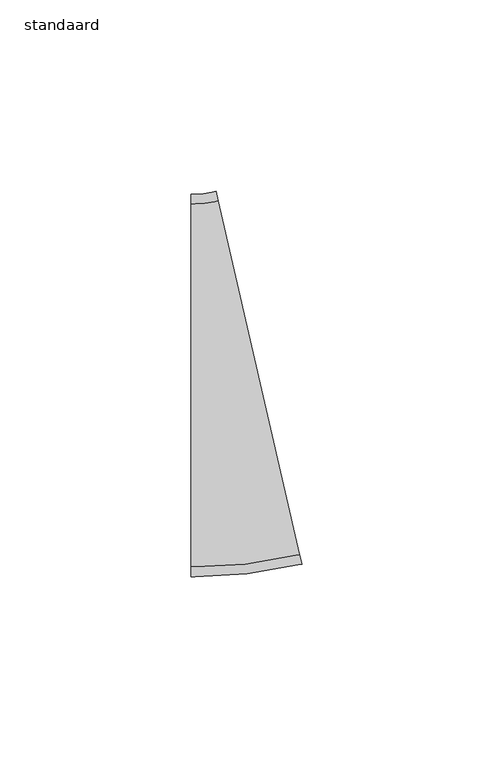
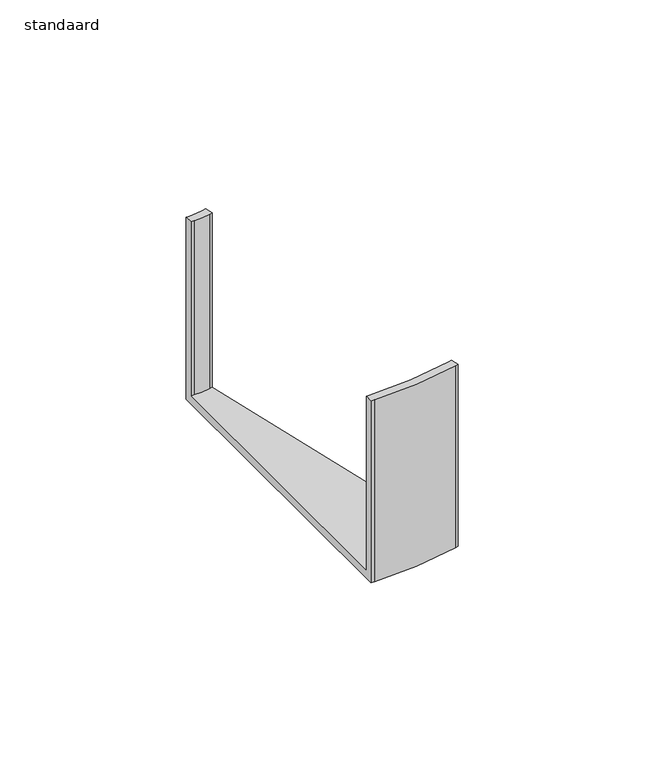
"""IFC4 building model written with IfcOpenShell, lengths in millimetres: cable carrier fitting geometry, AI_Raccord cdc_Coude horizontal rayon court : standaard."""

from ifc_helpers import new_model, si_unit, frame, origin, place, context, project, spatial, polyline, circle_curve, source, transform, mapped, element, save
from ifc_brep_helpers import plane_surface, cylinder_surface, revolved_surface, advanced_brep


def standaard_4c7fa205(model_context):
    return source(origin(), model_context, "Body", "AdvancedBrep", [
        advanced_brep(
        [(-8.9756089, -50.0, -30.0), (-8.9756089, -50.0, 30.0), (-8.9756089, -47.46, 30.0), (-8.9756089, -47.46, -27.46), (-8.9756089, 47.46, -27.46), (-8.9756089, 47.46, 30.0), (-8.9756089, 50.0, 30.0), (-8.9756089, 50.0, -30.0), (19.9932704, -46.699365, -30.0), (-2.5021545, 50.7375677, -30.0), (-2.5021545, 50.7375677, 30.0), (-1.9307707, 48.2626696, 30.0), (-1.9307707, 48.2626696, -27.46), (19.4218867, -44.2244669, -27.46), (19.4218867, -44.2244669, 30.0), (19.9932704, -46.699365, 30.0), (-7.9756089, -50.0, -30.0), (-7.9756089, -50.0, 30.0), (19.0189011, -46.9243192, 30.0), (18.4475173, -44.4494212, 30.0), (-7.9756089, -47.46, 30.0), (-7.9756089, -47.46, -27.46), (18.4475173, -44.4494212, -27.46), (-2.9051401, 48.0377154, -27.46), (-7.9756089, 47.46, -27.46), (-7.9756089, 47.46, 30.0), (-2.9051401, 48.0377154, 30.0), (-3.4765239, 50.5126135, 30.0), (-7.9756089, 50.0, 30.0), (-7.9756089, 50.0, -30.0), (-3.4765239, 50.5126135, -30.0), (19.0189011, -46.9243192, -30.0)],
        [
            (0, 1),
            (1, 2),
            (2, 3),
            (3, 4),
            (4, 5),
            (5, 6),
            (6, 7),
            (7, 0),
            (8, 9),
            (9, 10),
            (10, 11),
            (11, 12),
            (12, 13),
            (13, 14),
            (14, 15),
            (15, 8),
            (0, 16),
            (16, 17),
            (17, 1),
            (17, 18, circle_curve(frame((-7.9756089, 70.0, 30.0), z_axis=(0.0, 0.0, 1.0), x_axis=(0.0, -1.0, 0.0)), 120.0)),
            (18, 15),
            (14, 19),
            (19, 20, circle_curve(frame((-7.9756089, 70.0, 30.0), z_axis=(0.0, 0.0, -1.0), x_axis=(0.0, -1.0, 0.0)), 117.46)),
            (20, 2),
            (20, 21),
            (21, 3),
            (21, 22, circle_curve(frame((-7.9756089, 70.0, -27.46), z_axis=(0.0, 0.0, 1.0), x_axis=(0.0, -1.0, 0.0)), 117.46)),
            (22, 13),
            (12, 23),
            (23, 24, circle_curve(frame((-7.9756089, 70.0, -27.46), z_axis=(0.0, 0.0, -1.0), x_axis=(0.0, -1.0, 0.0)), 22.54)),
            (24, 4),
            (24, 25),
            (25, 5),
            (25, 26, circle_curve(frame((-7.9756089, 70.0, 30.0), z_axis=(0.0, 0.0, 1.0), x_axis=(0.0, -1.0, 0.0)), 22.54)),
            (26, 11),
            (10, 27),
            (27, 28, circle_curve(frame((-7.9756089, 70.0, 30.0), z_axis=(0.0, 0.0, -1.0), x_axis=(0.0, -1.0, 0.0)), 20.0)),
            (28, 6),
            (28, 29),
            (29, 7),
            (29, 30, circle_curve(frame((-7.9756089, 70.0, -30.0), z_axis=(0.0, 0.0, 1.0), x_axis=(0.0, -1.0, 0.0)), 20.0)),
            (30, 9),
            (8, 31),
            (31, 16, circle_curve(frame((-7.9756089, 70.0, -30.0), z_axis=(0.0, 0.0, -1.0), x_axis=(0.0, -1.0, 0.0)), 120.0)),
            (31, 18),
            (19, 22),
            (23, 26),
            (27, 30),
        ],
        [
            plane_surface(frame((-8.9756089, 0.0, 0.0), z_axis=(-1.0, -4.910971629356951e-12, 0.0), x_axis=(0.0, 0.0, 1.0))),
            plane_surface(frame((8.745558, 2.0191014, 0.0), z_axis=(0.9743693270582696, 0.22495424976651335, 0.0), x_axis=(0.0, 0.0, 1.0))),
            plane_surface(frame((-8.9756089, -50.0, -30.0), z_axis=(4.906741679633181e-12, -1.0, 0.0), x_axis=(1.0, 4.906741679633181e-12, 0.0))),
            plane_surface(frame((-8.9756089, -50.0, 30.0), z_axis=(0.0, 0.0, 1.0), x_axis=(1.0, 4.906741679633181e-12, 0.0))),
            plane_surface(frame((-8.9756089, -47.46, 30.0), z_axis=(-4.906741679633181e-12, 1.0, 0.0), x_axis=(1.0, 4.906741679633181e-12, 0.0))),
            plane_surface(frame((-8.9756089, -47.46, -27.46), z_axis=(0.0, 0.0, 1.0), x_axis=(1.0, 4.889821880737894e-12, 0.0))),
            plane_surface(frame((-8.9756089, 47.46, -27.46), z_axis=(4.8982817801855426e-12, -1.0, 0.0), x_axis=(1.0, 4.8982817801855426e-12, 0.0))),
            plane_surface(frame((-8.9756089, 47.46, 30.0), z_axis=(0.0, 0.0, 1.0), x_axis=(1.0, 4.8982817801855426e-12, 0.0))),
            plane_surface(frame((-8.9756089, 50.0, 30.0), z_axis=(-4.906741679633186e-12, 1.0, 0.0), x_axis=(1.0, 4.906741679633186e-12, 0.0))),
            plane_surface(frame((-8.9756089, 50.0, -30.0), z_axis=(0.0, 0.0, -1.0), x_axis=(1.0, 4.906741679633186e-12, 0.0))),
            cylinder_surface(frame((-7.9756089, 70.0, 0.0), z_axis=(0.0, 0.0, 1.0), x_axis=(0.0, -1.0, 0.0)), 120.0),
            revolved_surface(polyline([(-7.9756089, -47.459999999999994, 30.0), (-7.9756089, -47.459999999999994, -27.46)]), (-7.9756089, 70.0, 0.0), (0.0, 0.0, 1.0)),
            cylinder_surface(frame((-7.9756089, 70.0, 0.0), z_axis=(0.0, 0.0, 1.0), x_axis=(0.0, -1.0, 0.0)), 22.54),
            revolved_surface(polyline([(-7.9756089, 50.0, 30.0), (-7.9756089, 50.0, -30.0)]), (-7.9756089, 70.0, 0.0), (0.0, 0.0, 1.0)),
            plane_surface(frame((19.0189011, -46.9243192, -30.0), z_axis=(0.224954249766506, -0.9743693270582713, 0.0), x_axis=(0.9743693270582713, 0.224954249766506, 0.0))),
            plane_surface(frame((18.4475173, -44.4494212, 30.0), z_axis=(-0.22495424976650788, 0.974369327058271, 0.0), x_axis=(0.974369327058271, 0.22495424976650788, 0.0))),
            plane_surface(frame((-2.9051401, 48.0377154, -27.46), z_axis=(0.2249542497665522, -0.9743693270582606, 0.0), x_axis=(0.9743693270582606, 0.2249542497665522, 0.0))),
            plane_surface(frame((-3.4765239, 50.5126135, 30.0), z_axis=(-0.2249542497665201, 0.9743693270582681, 0.0), x_axis=(0.9743693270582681, 0.2249542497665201, 0.0))),
        ],
        [
            (0, [[1, 2, 3, 4, 5, 6, 7, 8]]),
            (1, [[9, 10, 11, 12, 13, 14, 15, 16]]),
            (2, [[-1, 17, 18, 19]]),
            (3, [[-2, -19, 20, 21, -15, 22, 23, 24]]),
            (4, [[-3, -24, 25, 26]]),
            (5, [[-4, -26, 27, 28, -13, 29, 30, 31]]),
            (6, [[-5, -31, 32, 33]]),
            (7, [[-6, -33, 34, 35, -11, 36, 37, 38]]),
            (8, [[-7, -38, 39, 40]]),
            (9, [[-8, -40, 41, 42, -9, 43, 44, -17]]),
            (10, [[-20, -18, -44, 45]]),
            (11, [[-27, -25, -23, 46]]),
            (12, [[-34, -32, -30, 47]]),
            (13, [[-41, -39, -37, 48]]),
            (14, [[-45, -43, -16, -21]]),
            (15, [[-46, -22, -14, -28]]),
            (16, [[-47, -29, -12, -35]]),
            (17, [[-48, -36, -10, -42]]),
        ],
    ),
    ])


if __name__ == "__main__":
    model = new_model("IFC4")
    model_context = context("Model", 3, world=origin())
    ifc_project = project(units=[si_unit("LENGTHUNIT", "METRE", prefix="MILLI")], contexts=[model_context])
    site = spatial("IfcSite", under=ifc_project)
    building = spatial("IfcBuilding", under=site)
    placement = place(None, origin())
    standaard_shape = standaard_4c7fa205(model_context)
    element("IfcCableCarrierFitting", 1, ObjectType="AI_Raccord cdc_Coude horizontal rayon court : standaard", at=placement, inside=building, context=model_context, shape_type="MappedRepresentation", body=[
        mapped(standaard_shape, transform((0.0, 0.0, 0.0), x_axis=(1.0, 0.0, 0.0), y_axis=(0.0, 1.0, 0.0), z_axis=(0.0, 0.0, 1.0))),
    ])
    save(model, "model.ifc")
